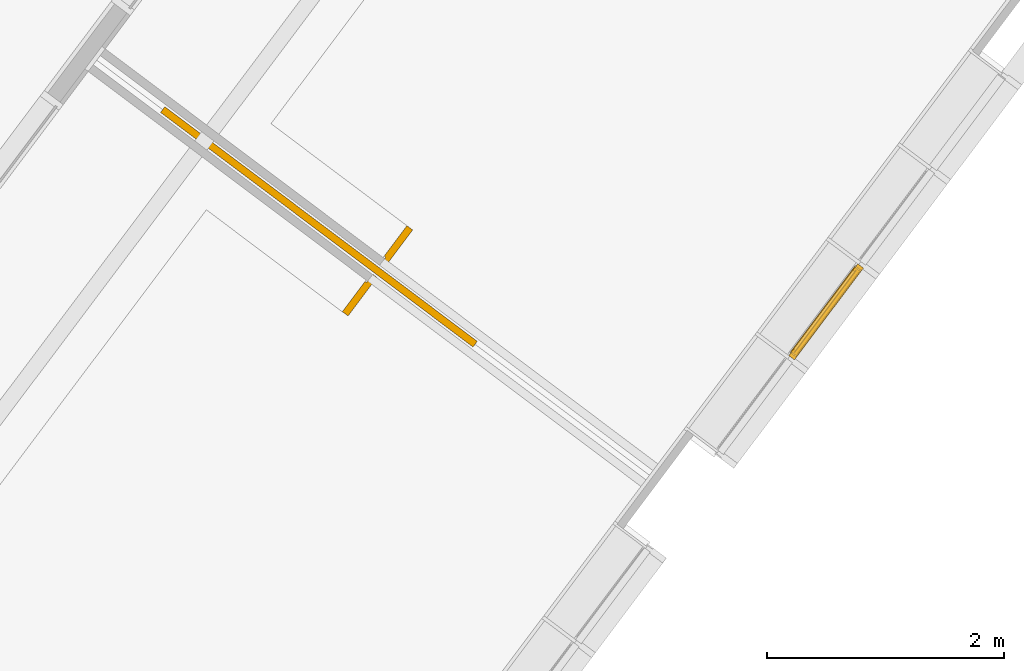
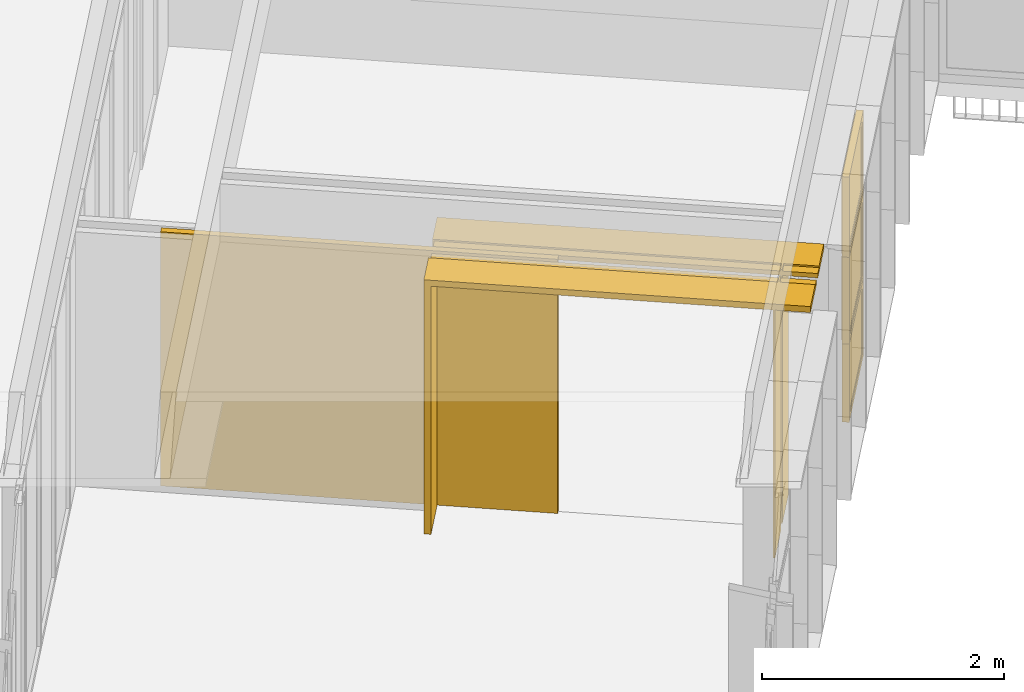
# One storey, part 193 of 243: 3 windows, 1 door, 1 element without a shape of its own.
"""IFC2X3 building model written with IfcOpenShell, lengths in metres."""

from ifc_helpers import new_model, entity, si_unit, converted_unit, derived_unit, direction, frame, origin, place, context, subcontext, project, spatial, faceted_brep, source, transform, mapped, material, material_list, type_object, type_shapes, element, aggregate, save


model = new_model("IFC2X3")

# Units and contexts
model_context = context("Model", 3, precision=1e-05, world=origin(), true_north=direction((6.123031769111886e-17, 1.0)))
body_context = subcontext(model_context, "Body", "Model", "MODEL_VIEW")
ifc_project = project(units=[si_unit("LENGTHUNIT", "METRE"), si_unit("AREAUNIT", "SQUARE_METRE"), si_unit("VOLUMEUNIT", "CUBIC_METRE"), converted_unit("PLANEANGLEUNIT", "DEGREE", entity("IfcRatioMeasure", 0.017453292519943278), si_unit("PLANEANGLEUNIT", "RADIAN"), dimensions=[0, 0, 0, 0, 0, 0, 0]), si_unit("MASSUNIT", "GRAM", prefix="KILO"), derived_unit("MASSDENSITYUNIT", [(si_unit("MASSUNIT", "GRAM", prefix="KILO"), 1), (si_unit("LENGTHUNIT", "METRE"), -3)]), derived_unit("IONCONCENTRATIONUNIT", [(si_unit("MASSUNIT", "GRAM", prefix="KILO"), 1), (si_unit("LENGTHUNIT", "METRE"), -3)]), derived_unit("MOMENTOFINERTIAUNIT", [(si_unit("LENGTHUNIT", "METRE"), 4)]), si_unit("TIMEUNIT", "SECOND"), si_unit("FREQUENCYUNIT", "HERTZ"), si_unit("THERMODYNAMICTEMPERATUREUNIT", "DEGREE_CELSIUS"), derived_unit("THERMALTRANSMITTANCEUNIT", [(si_unit("MASSUNIT", "GRAM", prefix="KILO"), 1), (si_unit("THERMODYNAMICTEMPERATUREUNIT", "KELVIN"), -1), (si_unit("TIMEUNIT", "SECOND"), -3)]), derived_unit("THERMALCONDUCTANCEUNIT", [(si_unit("MASSUNIT", "GRAM", prefix="KILO"), 1), (si_unit("THERMODYNAMICTEMPERATUREUNIT", "KELVIN"), -1), (si_unit("TIMEUNIT", "SECOND"), -3), (si_unit("LENGTHUNIT", "METRE"), 1)]), derived_unit("VOLUMETRICFLOWRATEUNIT", [(si_unit("LENGTHUNIT", "METRE"), 3), (si_unit("TIMEUNIT", "SECOND"), -1)]), derived_unit("MASSFLOWRATEUNIT", [(si_unit("MASSUNIT", "GRAM", prefix="KILO"), 1), (si_unit("TIMEUNIT", "SECOND"), -1)]), derived_unit("ROTATIONALFREQUENCYUNIT", [(si_unit("TIMEUNIT", "SECOND"), -1)]), si_unit("ELECTRICCURRENTUNIT", "AMPERE"), si_unit("ELECTRICVOLTAGEUNIT", "VOLT"), si_unit("POWERUNIT", "WATT"), si_unit("FORCEUNIT", "NEWTON", prefix="KILO"), si_unit("ILLUMINANCEUNIT", "LUX"), si_unit("LUMINOUSFLUXUNIT", "LUMEN"), si_unit("LUMINOUSINTENSITYUNIT", "CANDELA"), derived_unit("USERDEFINED", [(si_unit("MASSUNIT", "GRAM", prefix="KILO"), -1), (si_unit("LENGTHUNIT", "METRE"), -2), (si_unit("TIMEUNIT", "SECOND"), 3), (si_unit("LUMINOUSFLUXUNIT", "LUMEN"), 1)]), derived_unit("USERDEFINED", [(si_unit("MASSUNIT", "GRAM", prefix="KILO"), 1), (si_unit("TIMEUNIT", "SECOND"), -3), (si_unit("LENGTHUNIT", "METRE"), 3), (si_unit("ELECTRICCURRENTUNIT", "AMPERE"), -2)]), derived_unit("SOUNDPOWERUNIT", [(si_unit("MASSUNIT", "GRAM", prefix="KILO"), 1), (si_unit("TIMEUNIT", "SECOND"), -3), (si_unit("LENGTHUNIT", "METRE"), 2)]), derived_unit("SOUNDPRESSUREUNIT", [(si_unit("MASSUNIT", "GRAM", prefix="KILO"), 1), (si_unit("LENGTHUNIT", "METRE"), -1), (si_unit("TIMEUNIT", "SECOND"), -2)]), derived_unit("LINEARVELOCITYUNIT", [(si_unit("LENGTHUNIT", "METRE"), 1), (si_unit("TIMEUNIT", "SECOND"), -1)]), si_unit("PRESSUREUNIT", "PASCAL"), derived_unit("USERDEFINED", [(si_unit("MASSUNIT", "GRAM", prefix="KILO"), 1), (si_unit("LENGTHUNIT", "METRE"), -2), (si_unit("TIMEUNIT", "SECOND"), -2)]), derived_unit("LINEARFORCEUNIT", [(si_unit("MASSUNIT", "GRAM", prefix="KILO"), 1), (si_unit("TIMEUNIT", "SECOND"), -2)]), derived_unit("PLANARFORCEUNIT", [(si_unit("MASSUNIT", "GRAM", prefix="KILO"), 1), (si_unit("LENGTHUNIT", "METRE"), -1), (si_unit("TIMEUNIT", "SECOND"), -2)]), derived_unit("SPECIFICHEATCAPACITYUNIT", [(si_unit("THERMODYNAMICTEMPERATUREUNIT", "KELVIN"), -1), (si_unit("LENGTHUNIT", "METRE"), 2), (si_unit("TIMEUNIT", "SECOND"), -2)]), derived_unit("HEATINGVALUEUNIT", [(si_unit("LENGTHUNIT", "METRE"), 2), (si_unit("TIMEUNIT", "SECOND"), -2)]), derived_unit("VAPORPERMEABILITYUNIT", [(si_unit("LENGTHUNIT", "METRE"), -1), (si_unit("TIMEUNIT", "SECOND"), 1)]), derived_unit("DYNAMICVISCOSITYUNIT", [(si_unit("MASSUNIT", "GRAM", prefix="KILO"), 1), (si_unit("TIMEUNIT", "SECOND"), -1), (si_unit("LENGTHUNIT", "METRE"), -1)]), derived_unit("THERMALEXPANSIONCOEFFICIENTUNIT", [(si_unit("THERMODYNAMICTEMPERATUREUNIT", "KELVIN"), -1)]), derived_unit("MODULUSOFELASTICITYUNIT", [(si_unit("MASSUNIT", "GRAM", prefix="KILO"), 1), (si_unit("LENGTHUNIT", "METRE"), -1), (si_unit("TIMEUNIT", "SECOND"), -2)]), derived_unit("ISOTHERMALMOISTURECAPACITYUNIT", [(si_unit("LENGTHUNIT", "METRE"), 3), (si_unit("MASSUNIT", "GRAM", prefix="KILO"), -1)]), derived_unit("MOISTUREDIFFUSIVITYUNIT", [(si_unit("TIMEUNIT", "SECOND"), -1), (si_unit("LENGTHUNIT", "METRE"), 2)])], contexts=[model_context])

# Site, building, storey
site_placement = place(None, frame((0.0, 0.0, 235.0), z_axis=(0.0, 0.0, 1.0), x_axis=(-0.7996477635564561, 0.6004693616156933, 0.0)))
site = spatial("IfcSite", under=ifc_project, at=site_placement, Name="Default", CompositionType="ELEMENT")
building_placement = place(site_placement, origin())
building = spatial("IfcBuilding", under=site, at=building_placement, CompositionType="ELEMENT")
storey_placement = place(building_placement, origin())
storey = spatial("IfcBuildingStorey", under=building, at=storey_placement, Name="P0- Escola", CompositionType="ELEMENT", Elevation=0.0)

# Curtain wall, windows
curtain_wall_type = type_object("IfcCurtainWallType", Name="Muro cortina:MC- EXT- MC2", PredefinedType="NOTDEFINED")
curtain_wall_placement = place(storey_placement, origin())
curtain_wall = element("IfcCurtainWall", 1, at=curtain_wall_placement, inside=storey, type_object=curtain_wall_type, Name="Muro cortina:MC- EXT- MC2", ObjectType="Muro cortina:MC- EXT- MC2")
ifc_material_1 = material(Name="_Vidre")
ifc_material_2 = material(Name="_Alumini- T1- Perfil")
ifc_material_list_1 = material_list([ifc_material_1, ifc_material_2])
window_style_1 = type_object("IfcWindowStyle", Name="MC- Alu- Conjunt vidre fix- 62x60 cm:MC- Alu- Conjunt vidre fix- 62x60 cm", ConstructionType="NOTDEFINED", OperationType="NOTDEFINED", ParameterTakesPrecedence=False, Sizeable=False, material=ifc_material_list_1)
shared_shape_1 = source(origin(), body_context, "Body", "Brep", [
    faceted_brep([(0.4361932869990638, -0.007600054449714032, 0.048806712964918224), (0.4361932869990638, -0.03160022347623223, 0.048806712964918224), (-0.4361932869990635, -0.03160022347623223, 0.048806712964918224), (-0.4361932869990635, -0.007600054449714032, 0.048806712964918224), (0.4361932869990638, -0.007600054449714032, 0.7387000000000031), (-0.4361932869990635, -0.007600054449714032, 0.7387000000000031), (-0.4361932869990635, -0.03160022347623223, 0.7387000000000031), (0.4361932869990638, -0.03160022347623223, 0.7387000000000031)], [[[0, 1, 2, 3]], [[4, 0, 3, 5]], [[5, 3, 2, 6]], [[6, 2, 1, 7]], [[7, 1, 0, 4]], [[4, 5, 6, 7]]]),
    faceted_brep([(0.48499999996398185, -0.05999999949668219, 0.7877000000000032), (0.48499999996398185, -0.05999999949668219, 0.0), (0.48499999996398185, 0.0, 0.0), (0.48499999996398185, 0.0, 0.787700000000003), (-0.48499999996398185, 0.0, 0.7877000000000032), (-0.48499999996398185, 0.0, 0.0), (0.4221931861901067, 0.0, 0.7248931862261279), (-0.42219318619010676, 0.0, 0.724893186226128), (-0.4221931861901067, 0.0, 0.0628068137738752), (0.4221931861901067, 0.0, 0.06280681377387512), (-0.48499999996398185, -0.05999999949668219, 0.0), (-0.48499999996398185, -0.05999999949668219, 0.7877000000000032), (-0.42219603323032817, -0.05999999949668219, 0.7248960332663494), (0.42219603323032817, -0.05999999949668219, 0.7248960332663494), (0.42219603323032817, -0.05999999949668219, 0.0628039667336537), (-0.42219603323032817, -0.05999999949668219, 0.0628039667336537), (0.4221960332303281, -0.03160022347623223, 0.7248960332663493), (0.42219603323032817, -0.03160022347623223, 0.0628039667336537), (-0.42219603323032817, -0.03160022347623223, 0.06280396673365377), (-0.42219603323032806, -0.03160022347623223, 0.7248960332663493), (-0.43619328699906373, -0.03160022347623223, 0.738893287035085), (0.43619328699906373, -0.03160022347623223, 0.738893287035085), (0.43619328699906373, -0.03160022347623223, 0.048806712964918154), (-0.43619328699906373, -0.03160022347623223, 0.04880671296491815), (0.43619328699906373, -0.007600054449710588, 0.738893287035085), (0.43619328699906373, -0.007600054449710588, 0.04880671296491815), (-0.43619328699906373, -0.007600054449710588, 0.048806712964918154), (-0.43619328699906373, -0.007600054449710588, 0.738893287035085), (-0.42219318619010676, -0.007600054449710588, 0.724893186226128), (0.42219318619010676, -0.007600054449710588, 0.724893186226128), (0.42219318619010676, -0.007600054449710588, 0.06280681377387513), (-0.42219318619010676, -0.007600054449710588, 0.06280681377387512)], [[[0, 1, 2, 3]], [[4, 3, 2, 5], [6, 7, 8, 9]], [[1, 10, 5, 2]], [[0, 11, 10, 1], [12, 13, 14, 15]], [[16, 17, 14, 13]], [[17, 18, 15, 14]], [[16, 19, 18, 17], [20, 21, 22, 23]], [[24, 25, 22, 21]], [[25, 26, 23, 22]], [[24, 27, 26, 25], [28, 29, 30, 31]], [[6, 9, 30, 29]], [[9, 8, 31, 30]], [[10, 11, 4, 5]], [[18, 19, 12, 15]], [[26, 27, 20, 23]], [[8, 7, 28, 31]], [[11, 0, 3, 4]], [[19, 16, 13, 12]], [[27, 24, 21, 20]], [[7, 6, 29, 28]]], outer=[[True], [True, False], [True], [True, False], [True], [True], [False, True], [True], [True], [True, False], [True], [True], [True], [True], [True], [True], [True], [True], [True], [True]]),
])
type_shapes(window_style_1, [shared_shape_1])
window_1_placement = place(curtain_wall_placement, frame((53.74514768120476, -31.91519175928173, 0.03229999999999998), z_axis=(0.0, 0.0, 1.0), x_axis=(0.0, 1.0, 0.0)))
window_1 = element("IfcWindow", 2, at=window_1_placement, type_object=window_style_1, material=ifc_material_list_1, Name="MC- Alu- Conjunt vidre fix- 62x60 cm:MC- Alu- Conjunt vidre fix- 62x60 cm", ObjectType="MC- Alu- Conjunt vidre fix- 62x60 cm:MC- Alu- Conjunt vidre fix- 62x60 cm", OverallHeight=0.7877000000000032, OverallWidth=0.9699999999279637, context=body_context, shape_type="MappedRepresentation", body=[
    mapped(shared_shape_1, transform((0.0, 0.0, 0.0), scale=1.0)),
])
window_style_2 = type_object("IfcWindowStyle", Name="MC- Alu- Conjunt finestra basculant- 68x68 cm:MC- Alu- Conjunt finestra basculant- 68x68 cm", ConstructionType="NOTDEFINED", OperationType="NOTDEFINED", ParameterTakesPrecedence=False, Sizeable=False, material=ifc_material_list_1)
shared_shape_2 = source(origin(), body_context, "Body", "Brep", [
    faceted_brep([(0.43291170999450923, -0.03559830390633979, 0.051999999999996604), (-0.43291170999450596, -0.03559830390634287, 0.051999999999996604), (-0.43291170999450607, -0.011598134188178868, 0.051999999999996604), (0.43291170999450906, -0.011598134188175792, 0.051999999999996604), (0.43291170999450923, -0.035598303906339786, 0.8228027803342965), (0.43291170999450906, -0.011598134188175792, 0.8228027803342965), (-0.43291170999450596, -0.011598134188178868, 0.8228027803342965), (-0.43291170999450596, -0.03559830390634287, 0.8228027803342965)], [[[0, 1, 2, 3]], [[4, 0, 3, 5]], [[5, 3, 2, 6]], [[6, 2, 1, 7]], [[7, 1, 0, 4]], [[4, 5, 6, 7]]]),
    faceted_brep([(-0.4172108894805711, -0.009998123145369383, 0.8071019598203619), (-0.4172108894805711, -0.00999812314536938, 0.06789804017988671), (-0.4172108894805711, -0.007998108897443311, 0.06789804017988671), (-0.4172108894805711, -0.007998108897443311, 0.8071019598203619), (-0.44610892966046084, -0.007998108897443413, 0.8360000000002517), (0.44610892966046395, -0.007998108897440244, 0.8360000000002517), (0.44610892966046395, -0.007998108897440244, 0.03899999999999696), (-0.44610892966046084, -0.007998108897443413, 0.03899999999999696), (0.4172108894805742, -0.007998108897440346, 0.8071019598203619), (0.4172108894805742, -0.007998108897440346, 0.06789804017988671), (0.4172108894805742, -0.009998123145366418, 0.06789804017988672), (0.4172108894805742, -0.009998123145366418, 0.8071019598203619), (0.4329117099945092, -0.00999812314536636, 0.8228027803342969), (-0.43291170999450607, -0.009998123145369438, 0.8228027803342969), (-0.43291170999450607, -0.009998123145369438, 0.05219721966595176), (0.4329117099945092, -0.00999812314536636, 0.052197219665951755), (-0.4329117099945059, -0.04079986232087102, 0.8228027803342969), (-0.4329117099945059, -0.04079986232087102, 0.052197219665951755), (0.4329117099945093, -0.04079986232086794, 0.05219721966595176), (0.4329117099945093, -0.04079986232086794, 0.8228027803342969), (0.41721088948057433, -0.040799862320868, 0.8071019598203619), (-0.41721088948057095, -0.04079986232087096, 0.8071019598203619), (-0.41721088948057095, -0.04079986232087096, 0.06789804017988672), (0.41721088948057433, -0.040799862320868, 0.06789804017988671), (-0.4172108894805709, -0.06800005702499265, 0.8071019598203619), (-0.4172108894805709, -0.06800005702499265, 0.06789804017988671), (0.4172108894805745, -0.0680000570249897, 0.06789804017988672), (0.4172108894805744, -0.0680000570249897, 0.8071019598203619), (0.4636128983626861, -0.06800005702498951, 0.8535039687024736), (-0.4636128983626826, -0.06800005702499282, 0.8535039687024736), (-0.4636128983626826, -0.06800005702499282, 0.021496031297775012), (0.4636128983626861, -0.06800005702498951, 0.021496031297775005), (-0.4636128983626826, -0.0645000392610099, 0.8535039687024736), (-0.4636128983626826, -0.06450003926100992, 0.021496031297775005), (0.4636128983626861, -0.06450003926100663, 0.021496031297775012), (0.4636128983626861, -0.06450003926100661, 0.8535039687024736), (0.44610892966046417, -0.06450003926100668, 0.8360000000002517), (-0.4461089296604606, -0.06450003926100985, 0.8360000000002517), (-0.4461089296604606, -0.06450003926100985, 0.03899999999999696), (0.44610892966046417, -0.06450003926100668, 0.038999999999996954)], [[[0, 1, 2, 3]], [[4, 5, 6, 7], [8, 3, 2, 9]], [[1, 10, 9, 2]], [[0, 11, 10, 1], [12, 13, 14, 15]], [[16, 17, 14, 13]], [[17, 18, 15, 14]], [[16, 19, 18, 17], [20, 21, 22, 23]], [[24, 25, 22, 21]], [[25, 26, 23, 22]], [[24, 27, 26, 25], [28, 29, 30, 31]], [[32, 33, 30, 29]], [[33, 34, 31, 30]], [[32, 35, 34, 33], [36, 37, 38, 39]], [[4, 7, 38, 37]], [[7, 6, 39, 38]], [[10, 11, 8, 9]], [[18, 19, 12, 15]], [[26, 27, 20, 23]], [[34, 35, 28, 31]], [[6, 5, 36, 39]], [[11, 0, 3, 8]], [[19, 16, 13, 12]], [[27, 24, 21, 20]], [[35, 32, 29, 28]], [[5, 4, 37, 36]]], outer=[[True], [True, False], [True], [False, True], [True], [True], [True, False], [True], [True], [False, True], [True], [True], [True, False], [True], [True], [True], [True], [True], [True], [True], [True], [True], [True], [True], [True]]),
    faceted_brep([(0.42219318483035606, 0.0, 0.8121931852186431), (0.42219318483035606, 0.0, 0.06280681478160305), (0.42219318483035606, -0.0040000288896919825, 0.06280681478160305), (0.42219318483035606, -0.0040000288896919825, 0.8121931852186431), (-0.42219318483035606, -0.0040000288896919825, 0.8121931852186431), (-0.42219318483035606, -0.0040000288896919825, 0.06280681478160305), (0.4575998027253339, -0.0040000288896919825, 0.8475998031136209), (-0.4575998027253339, -0.0040000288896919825, 0.8475998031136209), (-0.4575998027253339, -0.0040000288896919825, 0.027400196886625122), (0.4575998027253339, -0.0040000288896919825, 0.02740019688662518), (-0.42219318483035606, 0.0, 0.06280681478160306), (-0.42219318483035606, 0.0, 0.8121931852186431), (-0.48499999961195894, 0.0, 0.875000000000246), (0.48499999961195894, 0.0, 0.875000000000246), (0.48499999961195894, 0.0, 0.0), (-0.48499999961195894, 0.0, 0.0), (0.48499999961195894, -0.05999999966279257, 0.875000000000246), (0.48499999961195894, -0.05999999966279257, 0.0), (-0.48499999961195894, -0.05999999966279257, 0.0), (-0.48499999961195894, -0.05999999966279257, 0.875000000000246), (-0.4575998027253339, -0.05999999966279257, 0.8475998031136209), (0.4575998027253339, -0.05999999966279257, 0.8475998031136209), (0.4575998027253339, -0.05999999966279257, 0.027400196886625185), (-0.4575998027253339, -0.05999999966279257, 0.02740019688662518)], [[[0, 1, 2, 3]], [[4, 3, 2, 5], [6, 7, 8, 9]], [[1, 10, 5, 2]], [[0, 11, 10, 1], [12, 13, 14, 15]], [[16, 17, 14, 13]], [[17, 18, 15, 14]], [[16, 19, 18, 17], [20, 21, 22, 23]], [[6, 9, 22, 21]], [[9, 8, 23, 22]], [[10, 11, 4, 5]], [[18, 19, 12, 15]], [[8, 7, 20, 23]], [[11, 0, 3, 4]], [[19, 16, 13, 12]], [[7, 6, 21, 20]]], outer=[[True], [False, True], [True], [False, True], [True], [True], [True, False], [True], [True], [True], [True], [True], [True], [True], [True]]),
])
type_shapes(window_style_2, [shared_shape_2])
window_2_placement = place(curtain_wall_placement, frame((53.74514768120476, -31.91519175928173, 0.8200000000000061), z_axis=(0.0, 0.0, 1.0), x_axis=(0.0, 1.0, 0.0)))
window_2 = element("IfcWindow", 3, at=window_2_placement, type_object=window_style_2, material=ifc_material_list_1, Name="MC- Alu- Conjunt finestra basculant- 68x68 cm:MC- Alu- Conjunt finestra basculant- 68x68 cm", ObjectType="MC- Alu- Conjunt finestra basculant- 68x68 cm:MC- Alu- Conjunt finestra basculant- 68x68 cm", OverallHeight=0.8750000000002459, OverallWidth=0.9699999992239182, context=body_context, shape_type="MappedRepresentation", body=[
    mapped(shared_shape_2, transform((0.0, 0.0, 0.0), scale=1.0)),
])
window_style_3 = type_object("IfcWindowStyle", Name="MC- Alu- Conjunt finestra basculant- 68x68 cm:MC- Alu- Conjunt finestra basculant- 68x68 cm", ConstructionType="NOTDEFINED", OperationType="NOTDEFINED", ParameterTakesPrecedence=False, Sizeable=False, material=ifc_material_list_1)
shared_shape_3 = source(origin(), body_context, "Body", "Brep", [
    faceted_brep([(0.432911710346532, -0.03559830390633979, 0.051999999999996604), (-0.43291171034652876, -0.03559830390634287, 0.051999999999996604), (-0.4329117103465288, -0.011598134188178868, 0.051999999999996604), (0.43291171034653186, -0.011598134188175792, 0.051999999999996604), (0.432911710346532, -0.035598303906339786, 0.7565527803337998), (0.43291171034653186, -0.011598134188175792, 0.7565527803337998), (-0.43291171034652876, -0.011598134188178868, 0.7565527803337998), (-0.43291171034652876, -0.03559830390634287, 0.7565527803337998)], [[[0, 1, 2, 3]], [[4, 0, 3, 5]], [[5, 3, 2, 6]], [[6, 2, 1, 7]], [[7, 1, 0, 4]], [[4, 5, 6, 7]]]),
    faceted_brep([(-0.41721088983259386, -0.009998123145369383, 0.7408519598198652), (-0.41721088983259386, -0.00999812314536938, 0.06789804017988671), (-0.41721088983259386, -0.007998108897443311, 0.06789804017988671), (-0.41721088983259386, -0.007998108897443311, 0.7408519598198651), (-0.4461089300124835, -0.007998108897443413, 0.7697499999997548), (0.44610893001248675, -0.007998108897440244, 0.7697499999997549), (0.4461089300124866, -0.007998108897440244, 0.03899999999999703), (-0.44610893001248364, -0.007998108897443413, 0.03899999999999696), (0.41721088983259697, -0.007998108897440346, 0.7408519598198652), (0.41721088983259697, -0.007998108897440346, 0.06789804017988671), (0.41721088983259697, -0.009998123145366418, 0.06789804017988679), (0.41721088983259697, -0.009998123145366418, 0.7408519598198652), (0.4329117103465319, -0.00999812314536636, 0.7565527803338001), (-0.4329117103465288, -0.009998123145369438, 0.7565527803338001), (-0.4329117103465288, -0.009998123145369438, 0.05219721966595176), (0.4329117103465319, -0.00999812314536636, 0.052197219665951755), (-0.4329117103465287, -0.04079986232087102, 0.7565527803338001), (-0.4329117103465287, -0.04079986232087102, 0.052197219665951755), (0.4329117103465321, -0.04079986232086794, 0.05219721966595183), (0.4329117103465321, -0.04079986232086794, 0.7565527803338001), (0.41721088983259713, -0.040799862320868, 0.7408519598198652), (-0.41721088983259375, -0.04079986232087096, 0.7408519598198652), (-0.41721088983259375, -0.04079986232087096, 0.06789804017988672), (0.41721088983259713, -0.040799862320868, 0.06789804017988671), (-0.4172108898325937, -0.06800005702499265, 0.7408519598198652), (-0.4172108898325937, -0.06800005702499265, 0.06789804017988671), (0.41721088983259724, -0.0680000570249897, 0.06789804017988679), (0.4172108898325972, -0.0680000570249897, 0.7408519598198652), (0.4636128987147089, -0.06800005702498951, 0.7872539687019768), (-0.46361289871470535, -0.06800005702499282, 0.7872539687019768), (-0.46361289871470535, -0.06800005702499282, 0.021496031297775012), (0.4636128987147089, -0.06800005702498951, 0.021496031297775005), (-0.46361289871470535, -0.0645000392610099, 0.7872539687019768), (-0.46361289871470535, -0.06450003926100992, 0.021496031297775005), (0.4636128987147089, -0.06450003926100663, 0.02149603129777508), (0.4636128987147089, -0.06450003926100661, 0.7872539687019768), (0.4461089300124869, -0.06450003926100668, 0.7697499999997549), (-0.4461089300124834, -0.06450003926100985, 0.7697499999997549), (-0.4461089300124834, -0.06450003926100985, 0.03899999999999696), (0.4461089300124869, -0.06450003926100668, 0.038999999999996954)], [[[0, 1, 2, 3]], [[4, 5, 6, 7], [8, 3, 2, 9]], [[1, 10, 9, 2]], [[0, 11, 10, 1], [12, 13, 14, 15]], [[16, 17, 14, 13]], [[17, 18, 15, 14]], [[16, 19, 18, 17], [20, 21, 22, 23]], [[24, 25, 22, 21]], [[25, 26, 23, 22]], [[24, 27, 26, 25], [28, 29, 30, 31]], [[32, 33, 30, 29]], [[33, 34, 31, 30]], [[32, 35, 34, 33], [36, 37, 38, 39]], [[4, 7, 38, 37]], [[7, 6, 39, 38]], [[10, 11, 8, 9]], [[18, 19, 12, 15]], [[26, 27, 20, 23]], [[34, 35, 28, 31]], [[6, 5, 36, 39]], [[11, 0, 3, 8]], [[19, 16, 13, 12]], [[27, 24, 21, 20]], [[35, 32, 29, 28]], [[5, 4, 37, 36]]], outer=[[True], [True, False], [True], [False, True], [True], [True], [True, False], [True], [True], [False, True], [True], [True], [True, False], [True], [True], [True], [True], [True], [True], [True], [True], [True], [True], [True], [True]]),
    faceted_brep([(0.4221931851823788, 0.0, 0.7459431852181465), (0.4221931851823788, 0.0, 0.06280681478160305), (0.4221931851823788, -0.0040000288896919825, 0.06280681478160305), (0.4221931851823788, -0.0040000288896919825, 0.7459431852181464), (-0.4221931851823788, -0.0040000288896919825, 0.7459431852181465), (-0.4221931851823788, -0.0040000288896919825, 0.06280681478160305), (0.4575998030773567, -0.0040000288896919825, 0.7813498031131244), (-0.4575998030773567, -0.0040000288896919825, 0.7813498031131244), (-0.4575998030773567, -0.0040000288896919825, 0.027400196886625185), (0.4575998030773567, -0.0040000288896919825, 0.02740019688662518), (-0.4221931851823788, 0.0, 0.06280681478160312), (-0.4221931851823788, 0.0, 0.7459431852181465), (-0.48499999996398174, 0.0, 0.8087499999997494), (0.48499999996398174, 0.0, 0.8087499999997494), (0.48499999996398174, 0.0, 0.0), (-0.48499999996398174, 0.0, 0.0), (0.48499999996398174, -0.05999999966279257, 0.8087499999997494), (0.48499999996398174, -0.05999999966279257, 0.0), (-0.48499999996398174, -0.05999999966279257, 0.0), (-0.48499999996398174, -0.05999999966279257, 0.8087499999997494), (-0.4575998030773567, -0.05999999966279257, 0.7813498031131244), (0.4575998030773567, -0.05999999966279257, 0.7813498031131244), (0.4575998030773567, -0.05999999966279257, 0.027400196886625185), (-0.4575998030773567, -0.05999999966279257, 0.02740019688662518)], [[[0, 1, 2, 3]], [[4, 3, 2, 5], [6, 7, 8, 9]], [[1, 10, 5, 2]], [[0, 11, 10, 1], [12, 13, 14, 15]], [[16, 17, 14, 13]], [[17, 18, 15, 14]], [[16, 19, 18, 17], [20, 21, 22, 23]], [[6, 9, 22, 21]], [[9, 8, 23, 22]], [[10, 11, 4, 5]], [[18, 19, 12, 15]], [[8, 7, 20, 23]], [[11, 0, 3, 4]], [[19, 16, 13, 12]], [[7, 6, 21, 20]]], outer=[[True], [False, True], [True], [False, True], [True], [True], [True, False], [True], [True], [True], [True], [True], [True], [True], [True]]),
])
type_shapes(window_style_3, [shared_shape_3])
window_3_placement = place(curtain_wall_placement, frame((53.74514768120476, -31.91519175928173, 1.6950000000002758), z_axis=(0.0, 0.0, 1.0), x_axis=(0.0, 1.0, 0.0)))
window_3 = element("IfcWindow", 4, at=window_3_placement, type_object=window_style_3, material=ifc_material_list_1, Name="MC- Alu- Conjunt finestra basculant- 68x68 cm:MC- Alu- Conjunt finestra basculant- 68x68 cm", ObjectType="MC- Alu- Conjunt finestra basculant- 68x68 cm:MC- Alu- Conjunt finestra basculant- 68x68 cm", OverallHeight=0.8087499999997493, OverallWidth=0.9699999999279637, context=body_context, shape_type="MappedRepresentation", body=[
    mapped(shared_shape_3, transform((0.0, 0.0, 0.0), scale=1.0)),
])
aggregate(curtain_wall, [window_1, window_2, window_3])

# Door
ifc_material_3 = material(Name="_Genèric perfils, muntants, rastrells")
ifc_material_4 = material(Name="_Fusta massisa- T1")
ifc_material_list_2 = material_list([ifc_material_3, ifc_material_4])
door_style = type_object("IfcDoorStyle", Name="FUS- Fusta- Porta corredera aules:FUS- Fusta- Porta corredera aules", ConstructionType="NOTDEFINED", OperationType="NOTDEFINED", ParameterTakesPrecedence=False, Sizeable=False, material=ifc_material_list_2)
shared_shape_4 = source(origin(), body_context, "Body", "Brep", [
    faceted_brep([(1.0619099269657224, 0.022981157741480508, 2.560000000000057), (-2.2396091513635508, 0.022981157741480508, 2.560000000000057), (-2.239609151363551, -0.022981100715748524, 2.560000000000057), (1.0619099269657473, -0.022981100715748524, 2.560000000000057), (1.0619099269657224, 0.022981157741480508, 0.0), (1.0619099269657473, -0.022981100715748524, 0.0), (-2.239609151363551, -0.022981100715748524, 0.0), (-2.2396091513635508, 0.022981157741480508, 0.0)], [[[0, 1, 2, 3]], [[4, 5, 6, 7]], [[1, 0, 4, 7]], [[2, 1, 7, 6]], [[3, 2, 6, 5]], [[0, 3, 5, 4]]]),
    faceted_brep([(1.0619099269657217, 0.022981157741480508, 2.560000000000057), (1.061909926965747, 0.029981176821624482, 2.560000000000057), (-2.2396091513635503, 0.029981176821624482, 2.560000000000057), (-2.2396091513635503, 0.022981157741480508, 2.560000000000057), (1.0619099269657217, 0.022981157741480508, 0.0), (-2.2396091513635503, 0.022981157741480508, 0.0), (-2.2396091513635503, 0.029981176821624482, 0.0), (1.061909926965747, 0.029981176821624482, 0.0)], [[[0, 1, 2, 3]], [[4, 5, 6, 7]], [[1, 0, 4, 7]], [[2, 1, 7, 6]], [[3, 2, 6, 5]], [[0, 3, 5, 4]]]),
    faceted_brep([(1.0619099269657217, -0.029981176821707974, 2.560000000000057), (1.061909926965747, -0.022981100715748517, 2.560000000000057), (-2.239609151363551, -0.022981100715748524, 2.560000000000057), (-2.239609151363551, -0.029981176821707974, 2.560000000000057), (1.0619099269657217, -0.029981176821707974, 0.0), (-2.239609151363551, -0.029981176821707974, 0.0), (-2.239609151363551, -0.022981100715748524, 0.0), (1.061909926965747, -0.022981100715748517, 0.0)], [[[0, 1, 2, 3]], [[4, 5, 6, 7]], [[1, 0, 4, 7]], [[2, 1, 7, 6]], [[3, 2, 6, 5]], [[0, 3, 5, 4]]]),
    faceted_brep([(2.9200000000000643, 0.04799999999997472, 0.0), (2.9040000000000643, 0.04799999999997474, 0.0), (2.9040000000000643, 0.4539999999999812, 0.0), (2.9200000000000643, 0.4539999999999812, 0.0), (2.9200000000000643, 0.04799999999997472, 2.5600000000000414), (2.9040000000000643, 0.04799999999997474, 2.5600000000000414), (2.9040000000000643, 0.4539999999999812, 2.5600000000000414), (2.9200000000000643, 0.4539999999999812, 2.5600000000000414)], [[[0, 1, 2, 3]], [[4, 5, 1, 0]], [[5, 6, 2, 1]], [[6, 7, 3, 2]], [[7, 4, 0, 3]], [[4, 7, 6, 5]]]),
    faceted_brep([(2.9200000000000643, -0.04799999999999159, 2.5600000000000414), (2.9200000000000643, -0.45400000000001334, 2.5600000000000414), (2.9200000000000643, -0.45400000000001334, 0.0), (2.9200000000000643, -0.04799999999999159, 0.0), (2.9040000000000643, -0.45400000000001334, 2.5600000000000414), (2.9040000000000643, -0.45400000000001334, 0.0), (2.9040000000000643, -0.04799999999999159, 2.5600000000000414), (2.9040000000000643, -0.04799999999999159, 0.0)], [[[0, 1, 2, 3]], [[1, 4, 5, 2]], [[4, 6, 7, 5]], [[6, 0, 3, 7]], [[0, 6, 4, 1]], [[3, 2, 5, 7]]]),
    faceted_brep([(0.0, -0.4540000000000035, 0.0), (0.0, -0.1340000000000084, 0.0), (0.016000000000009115, -0.13400000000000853, 0.0), (0.01600000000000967, -0.047999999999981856, 0.0), (0.060000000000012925, -0.047999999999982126, 0.0), (0.0600000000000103, -0.45400000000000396, 0.0), (0.0, -0.4540000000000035, 2.559999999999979), (0.0, -0.1340000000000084, 2.5599999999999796), (3.2150000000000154, -0.1340000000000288, 2.559999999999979), (3.2150000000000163, -0.13400000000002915, 2.5439999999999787), (0.01600000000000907, -0.13400000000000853, 2.543999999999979), (0.016000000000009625, -0.04799999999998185, 2.543999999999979), (3.215000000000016, -0.048000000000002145, 2.5439999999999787), (3.2150000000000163, -0.04800000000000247, 2.4999999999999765), (0.06000000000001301, -0.04799999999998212, 2.499999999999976), (0.06000000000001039, -0.45400000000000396, 2.499999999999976), (3.215000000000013, -0.45400000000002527, 2.4999999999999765), (3.2150000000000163, -0.45400000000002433, 2.559999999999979)], [[[0, 1, 2, 3, 4, 5]], [[1, 0, 6, 7]], [[2, 1, 7, 8, 9, 10]], [[3, 2, 10, 11]], [[4, 3, 11, 12, 13, 14]], [[5, 4, 14, 15]], [[0, 5, 15, 16, 17, 6]], [[17, 16, 13, 12, 9, 8]], [[15, 14, 13, 16]], [[11, 10, 9, 12]], [[7, 6, 17, 8]]]),
    faceted_brep([(0.06000000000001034, 0.45399999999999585, 0.0), (0.0, 0.4539999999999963, 0.0), (0.0, 0.4539999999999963, 2.5599999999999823), (3.215000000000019, 0.4539999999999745, 2.559999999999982), (3.2150000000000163, 0.4539999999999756, 2.499999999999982), (0.0600000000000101, 0.453999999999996, 2.499999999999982), (0.060000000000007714, 0.047999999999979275, 0.0), (0.06000000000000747, 0.047999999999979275, 2.4999999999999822), (0.016000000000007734, 0.04799999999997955, 0.0), (3.2150000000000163, 0.047999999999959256, 2.4999999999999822), (3.2150000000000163, 0.04799999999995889, 2.5439999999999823), (0.01600000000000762, 0.047999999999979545, 2.5439999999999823), (0.016000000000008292, 0.1339999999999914, 0.0), (0.016000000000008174, 0.1339999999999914, 2.5439999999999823), (0.0, 0.1339999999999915, 0.0), (3.2150000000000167, 0.1339999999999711, 2.5439999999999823), (3.2150000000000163, 0.13399999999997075, 2.5599999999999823), (0.0, 0.13399999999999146, 2.559999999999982)], [[[0, 1, 2, 3, 4, 5]], [[6, 0, 5, 7]], [[8, 6, 7, 9, 10, 11]], [[12, 8, 11, 13]], [[14, 12, 13, 15, 16, 17]], [[1, 14, 17, 2]], [[2, 17, 16, 3]], [[13, 11, 10, 15]], [[7, 5, 4, 9]], [[3, 16, 15, 10, 9, 4]], [[1, 0, 6, 8, 12, 14]]]),
])
type_shapes(door_style, [shared_shape_4])
door_placement = place(storey_placement, frame((57.04414768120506, -29.916189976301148, 0.0), z_axis=(0.0, 0.0, 1.0), x_axis=(-1.0, 0.0, 0.0)))
element("IfcDoor", 5, at=door_placement, inside=storey, type_object=door_style, material=ifc_material_list_2, Name="FUS- Fusta- Porta corredera aules:FUS- Fusta- Porta corredera aules", ObjectType="FUS- Fusta- Porta corredera aules:FUS- Fusta- Porta corredera aules", OverallHeight=2.5600000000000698, OverallWidth=5.48160915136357, context=body_context, shape_type="MappedRepresentation", body=[
    mapped(shared_shape_4, transform((0.0, 0.0, 0.0), scale=1.0)),
])

save(model, "model.ifc")
